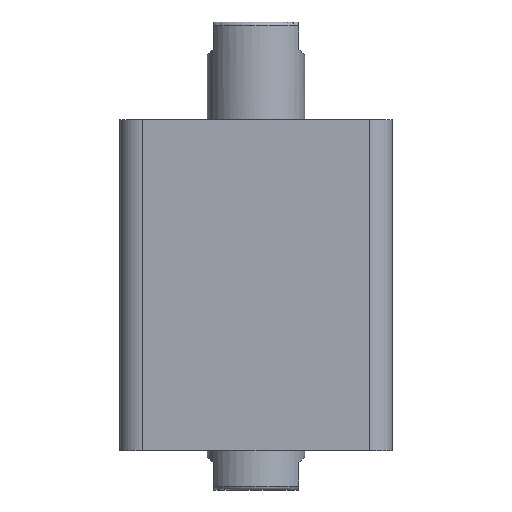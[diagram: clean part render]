
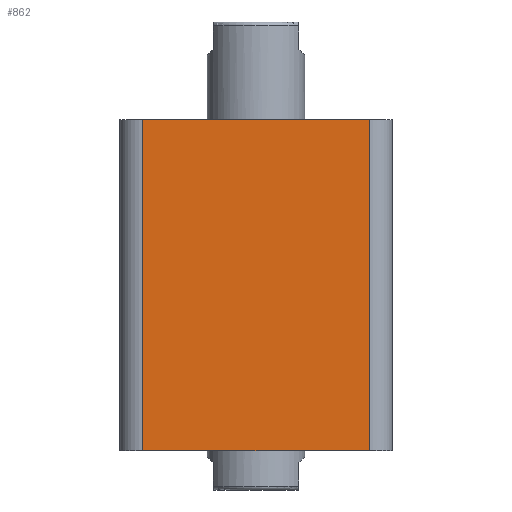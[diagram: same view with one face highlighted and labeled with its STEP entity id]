
A CAD part, front view. The second image highlights one B-rep face of the part: STEP entity #862.
In plain terms, the highlighted planar face has unit normal (0, -1, 0).
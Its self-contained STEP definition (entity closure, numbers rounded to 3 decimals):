
#282 = FACE_OUTER_BOUND ( 'NONE', #3235, .T. ) ;
#557 = ORIENTED_EDGE ( 'NONE', *, *, #1488, .F. ) ;
#558 = ORIENTED_EDGE ( 'NONE', *, *, #1489, .T. ) ;
#559 = ORIENTED_EDGE ( 'NONE', *, *, #1490, .T. ) ;
#560 = ORIENTED_EDGE ( 'NONE', *, *, #1491, .T. ) ;
#600 = VECTOR ( 'NONE', #1048, 1000. ) ;
#602 = LINE ( 'NONE', #1049, #603 ) ;
#603 = VECTOR ( 'NONE', #1050, 1000. ) ;
#604 = LINE ( 'NONE', #1052, #608 ) ;
#605 = LINE ( 'NONE', #2321, #606 ) ;
#606 = VECTOR ( 'NONE', #1051, 1000. ) ;
#608 = VECTOR ( 'NONE', #1053, 1000. ) ;
#862 = ADVANCED_FACE ( 'NONE', ( #282 ), #2951, .F. ) ;
#1047 = CARTESIAN_POINT ( 'NONE',  ( -35., -35., 85. ) ) ;
#1048 = DIRECTION ( 'NONE',  ( 1., 0., 0. ) ) ;
#1049 = CARTESIAN_POINT ( 'NONE',  ( -29., -35., 85. ) ) ;
#1050 = DIRECTION ( 'NONE',  ( 0., 0., -1. ) ) ;
#1051 = DIRECTION ( 'NONE',  ( 1., 0., 0. ) ) ;
#1052 = CARTESIAN_POINT ( 'NONE',  ( 29., -35., 85. ) ) ;
#1053 = DIRECTION ( 'NONE',  ( 0., 0., 1. ) ) ;
#1228 = CARTESIAN_POINT ( 'NONE',  ( 29., -35., 85. ) ) ;
#1230 = CARTESIAN_POINT ( 'NONE',  ( -29., -35., 0. ) ) ;
#1232 = CARTESIAN_POINT ( 'NONE',  ( 29., -35., 0. ) ) ;
#1240 = CARTESIAN_POINT ( 'NONE',  ( -29., -35., 85. ) ) ;
#1488 = EDGE_CURVE ( 'NONE', #2803, #2790, #1875, .T. ) ;
#1489 = EDGE_CURVE ( 'NONE', #2803, #2794, #602, .T. ) ;
#1490 = EDGE_CURVE ( 'NONE', #2794, #2793, #605, .T. ) ;
#1491 = EDGE_CURVE ( 'NONE', #2793, #2790, #604, .T. ) ;
#1875 = LINE ( 'NONE', #1047, #600 ) ;
#1891 = AXIS2_PLACEMENT_3D ( 'NONE', #2947, #2952, #2953 ) ;
#2321 = CARTESIAN_POINT ( 'NONE',  ( -35., -35., 0. ) ) ;
#2790 = VERTEX_POINT ( 'NONE', #1228 ) ;
#2793 = VERTEX_POINT ( 'NONE', #1232 ) ;
#2794 = VERTEX_POINT ( 'NONE', #1230 ) ;
#2803 = VERTEX_POINT ( 'NONE', #1240 ) ;
#2947 = CARTESIAN_POINT ( 'NONE',  ( -35., -35., 85. ) ) ;
#2951 = PLANE ( 'NONE',  #1891 ) ;
#2952 = DIRECTION ( 'NONE',  ( 0., 1., 0. ) ) ;
#2953 = DIRECTION ( 'NONE',  ( 0., 0., 1. ) ) ;
#3235 = EDGE_LOOP ( 'NONE', ( #557, #558, #559, #560 ) ) ;
